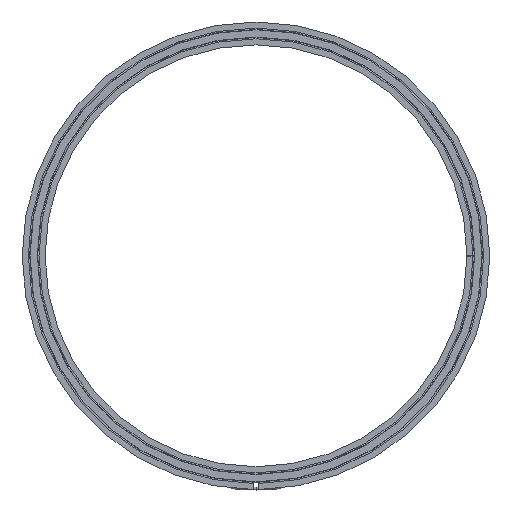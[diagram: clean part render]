
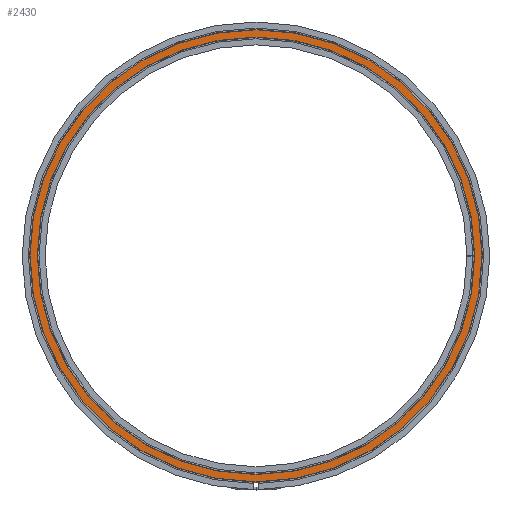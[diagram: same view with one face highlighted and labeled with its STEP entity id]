
A CAD part, left-side view. The second image highlights one B-rep face of the part: STEP entity #2430.
In plain terms, the highlighted planar face has unit normal (-1, 0, 0).
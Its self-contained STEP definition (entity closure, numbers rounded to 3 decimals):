
#395=CARTESIAN_POINT('',(-2.8,0.,-215.164));
#396=VERTEX_POINT('',#395);
#404=CARTESIAN_POINT('',(-2.8,0.,215.164));
#405=VERTEX_POINT('',#404);
#406=CARTESIAN_POINT('',(-2.8,0.0,0.0));
#407=DIRECTION('',(1.0,0.0,0.0));
#408=DIRECTION('',(0.0,1.0,0.0));
#409=AXIS2_PLACEMENT_3D('',#406,#407,#408);
#410=CIRCLE('',#409,215.164);
#411=EDGE_CURVE('',#405,#396,#410,.T.);
#483=CARTESIAN_POINT('',(-2.8,0.,222.336));
#484=VERTEX_POINT('',#483);
#492=CARTESIAN_POINT('',(-2.8,0.,-222.336));
#493=VERTEX_POINT('',#492);
#494=CARTESIAN_POINT('',(-2.8,0.0,0.0));
#495=DIRECTION('',(1.0,0.0,0.0));
#496=DIRECTION('',(0.0,1.0,0.0));
#497=AXIS2_PLACEMENT_3D('',#494,#495,#496);
#498=CIRCLE('',#497,222.336);
#499=EDGE_CURVE('',#484,#493,#498,.T.);
#748=CARTESIAN_POINT('',(-2.8,222.336,0.0));
#749=VERTEX_POINT('',#748);
#750=CARTESIAN_POINT('',(-2.8,0.0,0.0));
#751=DIRECTION('',(1.0,0.0,0.0));
#752=DIRECTION('',(0.0,1.0,0.0));
#753=AXIS2_PLACEMENT_3D('',#750,#751,#752);
#754=CIRCLE('',#753,222.336);
#755=EDGE_CURVE('',#493,#749,#754,.T.);
#757=CARTESIAN_POINT('',(-2.8,0.0,0.0));
#758=DIRECTION('',(1.0,0.0,0.0));
#759=DIRECTION('',(0.0,1.0,0.0));
#760=AXIS2_PLACEMENT_3D('',#757,#758,#759);
#761=CIRCLE('',#760,222.336);
#762=EDGE_CURVE('',#749,#484,#761,.T.);
#1332=CARTESIAN_POINT('',(-2.8,215.164,0.0));
#1333=VERTEX_POINT('',#1332);
#1334=CARTESIAN_POINT('',(-2.8,0.0,0.0));
#1335=DIRECTION('',(1.0,0.0,0.0));
#1336=DIRECTION('',(0.0,1.0,0.0));
#1337=AXIS2_PLACEMENT_3D('',#1334,#1335,#1336);
#1338=CIRCLE('',#1337,215.164);
#1339=EDGE_CURVE('',#1333,#405,#1338,.T.);
#1341=CARTESIAN_POINT('',(-2.8,0.0,0.0));
#1342=DIRECTION('',(1.0,0.0,0.0));
#1343=DIRECTION('',(0.0,1.0,0.0));
#1344=AXIS2_PLACEMENT_3D('',#1341,#1342,#1343);
#1345=CIRCLE('',#1344,215.164);
#1346=EDGE_CURVE('',#396,#1333,#1345,.T.);
#2415=CARTESIAN_POINT('',(-2.8,218.75,0.0));
#2416=DIRECTION('',(-1.0,0.0,0.0));
#2417=DIRECTION('',(0.0,0.0,1.0));
#2418=AXIS2_PLACEMENT_3D('',#2415,#2416,#2417);
#2419=PLANE('',#2418);
#2420=ORIENTED_EDGE('',*,*,#762,.F.);
#2421=ORIENTED_EDGE('',*,*,#755,.F.);
#2422=ORIENTED_EDGE('',*,*,#499,.F.);
#2423=EDGE_LOOP('',(#2420,#2421,#2422));
#2424=FACE_OUTER_BOUND('',#2423,.T.);
#2425=ORIENTED_EDGE('',*,*,#1339,.T.);
#2426=ORIENTED_EDGE('',*,*,#411,.T.);
#2427=ORIENTED_EDGE('',*,*,#1346,.T.);
#2428=EDGE_LOOP('',(#2425,#2426,#2427));
#2429=FACE_BOUND('',#2428,.T.);
#2430=ADVANCED_FACE('',(#2424,#2429),#2419,.T.);
